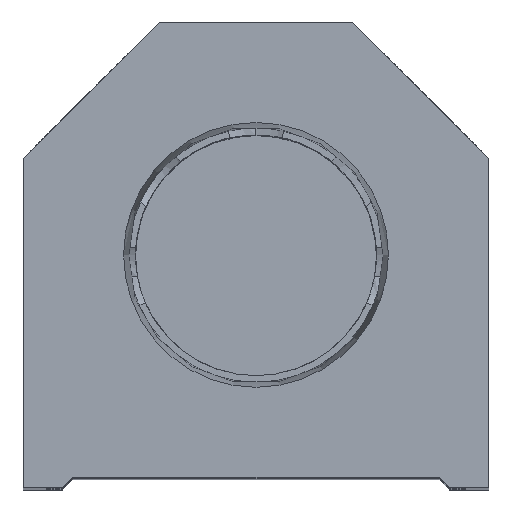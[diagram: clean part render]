
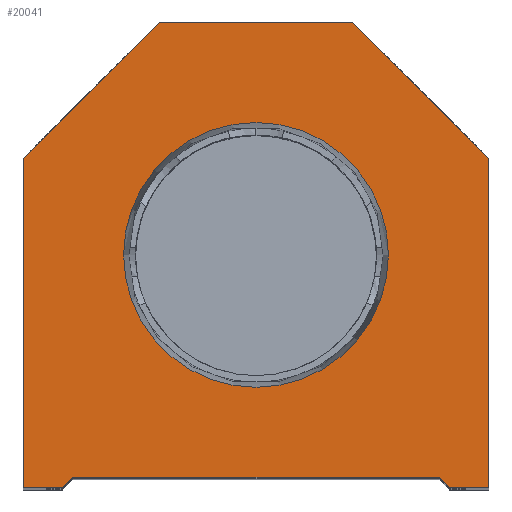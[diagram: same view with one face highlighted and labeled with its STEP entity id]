
A CAD part, top view. The second image highlights one B-rep face of the part: STEP entity #20041.
In plain terms, the highlighted planar face has unit normal (0, 0, 1).
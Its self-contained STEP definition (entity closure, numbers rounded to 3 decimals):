
#434 = DIRECTION ( 'NONE',  ( -0.707, -0.707, 0. ) ) ;
#444 = LINE ( 'NONE', #12379, #8956 ) ;
#504 = EDGE_CURVE ( 'NONE', #8210, #4084, #17225, .T. ) ;
#636 = EDGE_LOOP ( 'NONE', ( #14084, #20983, #6549, #16341, #22123, #20213, #9057, #3186, #5965, #1550 ) ) ;
#888 = AXIS2_PLACEMENT_3D ( 'NONE', #18411, #20607, #22697 ) ;
#1187 = CARTESIAN_POINT ( 'NONE',  ( -22.25, 31.5, 0. ) ) ;
#1312 = AXIS2_PLACEMENT_3D ( 'NONE', #7819, #8327, #23846 ) ;
#1343 = CARTESIAN_POINT ( 'NONE',  ( 17.5, 1., 0. ) ) ;
#1392 = EDGE_CURVE ( 'NONE', #21351, #7977, #444, .T. ) ;
#1550 = ORIENTED_EDGE ( 'NONE', *, *, #16546, .T. ) ;
#1570 = CARTESIAN_POINT ( 'NONE',  ( -9.25, 44.5, 0. ) ) ;
#2235 = VECTOR ( 'NONE', #9976, 1000. ) ;
#2253 = EDGE_CURVE ( 'NONE', #22250, #4230, #7909, .T. ) ;
#2354 = LINE ( 'NONE', #18084, #20437 ) ;
#2426 = CARTESIAN_POINT ( 'NONE',  ( 0., 22.25, 0. ) ) ;
#2516 = VERTEX_POINT ( 'NONE', #1570 ) ;
#2535 = FACE_BOUND ( 'NONE', #25291, .T. ) ;
#3014 = VECTOR ( 'NONE', #15741, 1000. ) ;
#3186 = ORIENTED_EDGE ( 'NONE', *, *, #25223, .T. ) ;
#3266 = VERTEX_POINT ( 'NONE', #24416 ) ;
#3750 = VECTOR ( 'NONE', #5486, 1000. ) ;
#4084 = VERTEX_POINT ( 'NONE', #1343 ) ;
#4230 = VERTEX_POINT ( 'NONE', #21325 ) ;
#4453 = LINE ( 'NONE', #4582, #20149 ) ;
#4459 = EDGE_CURVE ( 'NONE', #23551, #15921, #10469, .T. ) ;
#4582 = CARTESIAN_POINT ( 'NONE',  ( -22.25, 0., 0. ) ) ;
#5486 = DIRECTION ( 'NONE',  ( 1., 0., 0. ) ) ;
#5885 = VERTEX_POINT ( 'NONE', #10987 ) ;
#5965 = ORIENTED_EDGE ( 'NONE', *, *, #6673, .T. ) ;
#6450 = DIRECTION ( 'NONE',  ( 0.707, 0.707, 0. ) ) ;
#6549 = ORIENTED_EDGE ( 'NONE', *, *, #504, .T. ) ;
#6663 = PLANE ( 'NONE',  #888 ) ;
#6673 = EDGE_CURVE ( 'NONE', #2516, #10032, #2354, .T. ) ;
#6926 = CARTESIAN_POINT ( 'NONE',  ( -12.647, 22.25, 0. ) ) ;
#6965 = CARTESIAN_POINT ( 'NONE',  ( -9.25, 9.25, 0. ) ) ;
#7430 = CARTESIAN_POINT ( 'NONE',  ( -17.5, 1., 0. ) ) ;
#7507 = LINE ( 'NONE', #7630, #3014 ) ;
#7576 = CARTESIAN_POINT ( 'NONE',  ( 9.25, 44.5, 0. ) ) ;
#7630 = CARTESIAN_POINT ( 'NONE',  ( 9.25, 44.5, 0. ) ) ;
#7725 = DIRECTION ( 'NONE',  ( 0.707, -0.707, 0. ) ) ;
#7819 = CARTESIAN_POINT ( 'NONE',  ( 0., 22.25, 0. ) ) ;
#7909 = LINE ( 'NONE', #21775, #16171 ) ;
#7977 = VERTEX_POINT ( 'NONE', #7576 ) ;
#8210 = VERTEX_POINT ( 'NONE', #8976 ) ;
#8327 = DIRECTION ( 'NONE',  ( 0., 0., 1. ) ) ;
#8956 = VECTOR ( 'NONE', #16407, 1000. ) ;
#8976 = CARTESIAN_POINT ( 'NONE',  ( -17.5, 1., 0. ) ) ;
#9057 = ORIENTED_EDGE ( 'NONE', *, *, #1392, .T. ) ;
#9130 = DIRECTION ( 'NONE',  ( 1., 0., 0. ) ) ;
#9341 = EDGE_CURVE ( 'NONE', #3266, #5885, #18947, .T. ) ;
#9799 = EDGE_CURVE ( 'NONE', #4230, #21351, #21908, .T. ) ;
#9976 = DIRECTION ( 'NONE',  ( 0., 1., 0. ) ) ;
#10032 = VERTEX_POINT ( 'NONE', #1187 ) ;
#10469 = CIRCLE ( 'NONE', #18342, 12.647 ) ;
#10516 = FACE_OUTER_BOUND ( 'NONE', #636, .T. ) ;
#10987 = CARTESIAN_POINT ( 'NONE',  ( -18.5, 0., 0. ) ) ;
#12379 = CARTESIAN_POINT ( 'NONE',  ( 22.25, 31.5, 0. ) ) ;
#12434 = DIRECTION ( 'NONE',  ( 0., -1., 0. ) ) ;
#13062 = EDGE_CURVE ( 'NONE', #5885, #8210, #16762, .T. ) ;
#13895 = LINE ( 'NONE', #21450, #21050 ) ;
#14084 = ORIENTED_EDGE ( 'NONE', *, *, #9341, .T. ) ;
#15636 = CARTESIAN_POINT ( 'NONE',  ( 18.5, 0., 0. ) ) ;
#15741 = DIRECTION ( 'NONE',  ( -1., 0., 0. ) ) ;
#15921 = VERTEX_POINT ( 'NONE', #21994 ) ;
#16171 = VECTOR ( 'NONE', #19543, 1000. ) ;
#16341 = ORIENTED_EDGE ( 'NONE', *, *, #19390, .T. ) ;
#16407 = DIRECTION ( 'NONE',  ( -0.707, 0.707, 0. ) ) ;
#16546 = EDGE_CURVE ( 'NONE', #10032, #3266, #4453, .T. ) ;
#16762 = LINE ( 'NONE', #6965, #19354 ) ;
#17225 = LINE ( 'NONE', #7430, #3750 ) ;
#17922 = VECTOR ( 'NONE', #9130, 1000. ) ;
#18084 = CARTESIAN_POINT ( 'NONE',  ( -22.25, 31.5, 0. ) ) ;
#18228 = CARTESIAN_POINT ( 'NONE',  ( 22.25, 31.5, 0. ) ) ;
#18342 = AXIS2_PLACEMENT_3D ( 'NONE', #2426, #22205, #22461 ) ;
#18411 = CARTESIAN_POINT ( 'NONE',  ( 0., 0., 0. ) ) ;
#18471 = CARTESIAN_POINT ( 'NONE',  ( -17.5, 0., 0. ) ) ;
#18947 = LINE ( 'NONE', #18471, #17922 ) ;
#19354 = VECTOR ( 'NONE', #6450, 1000. ) ;
#19390 = EDGE_CURVE ( 'NONE', #4084, #22250, #13895, .T. ) ;
#19543 = DIRECTION ( 'NONE',  ( 1., 0., 0. ) ) ;
#20041 = ADVANCED_FACE ( 'NONE', ( #2535, #10516 ), #6663, .T. ) ;
#20149 = VECTOR ( 'NONE', #12434, 1000. ) ;
#20213 = ORIENTED_EDGE ( 'NONE', *, *, #9799, .T. ) ;
#20255 = EDGE_CURVE ( 'NONE', #15921, #23551, #24830, .T. ) ;
#20437 = VECTOR ( 'NONE', #434, 1000. ) ;
#20607 = DIRECTION ( 'NONE',  ( 0., 0., 1. ) ) ;
#20983 = ORIENTED_EDGE ( 'NONE', *, *, #13062, .T. ) ;
#21050 = VECTOR ( 'NONE', #7725, 1000. ) ;
#21325 = CARTESIAN_POINT ( 'NONE',  ( 22.25, 0., 0. ) ) ;
#21351 = VERTEX_POINT ( 'NONE', #18228 ) ;
#21450 = CARTESIAN_POINT ( 'NONE',  ( 9.25, 9.25, 0. ) ) ;
#21775 = CARTESIAN_POINT ( 'NONE',  ( 17.5, 0., 0. ) ) ;
#21908 = LINE ( 'NONE', #24089, #2235 ) ;
#21994 = CARTESIAN_POINT ( 'NONE',  ( 12.647, 22.25, 0. ) ) ;
#22123 = ORIENTED_EDGE ( 'NONE', *, *, #2253, .T. ) ;
#22205 = DIRECTION ( 'NONE',  ( 0., 0., 1. ) ) ;
#22250 = VERTEX_POINT ( 'NONE', #15636 ) ;
#22461 = DIRECTION ( 'NONE',  ( 1., 0., 0. ) ) ;
#22697 = DIRECTION ( 'NONE',  ( 1., 0., 0. ) ) ;
#23551 = VERTEX_POINT ( 'NONE', #6926 ) ;
#23846 = DIRECTION ( 'NONE',  ( 1., 0., 0. ) ) ;
#23910 = ORIENTED_EDGE ( 'NONE', *, *, #20255, .F. ) ;
#24089 = CARTESIAN_POINT ( 'NONE',  ( 22.25, 0., 0. ) ) ;
#24416 = CARTESIAN_POINT ( 'NONE',  ( -22.25, 0., 0. ) ) ;
#24830 = CIRCLE ( 'NONE', #1312, 12.647 ) ;
#25223 = EDGE_CURVE ( 'NONE', #7977, #2516, #7507, .T. ) ;
#25291 = EDGE_LOOP ( 'NONE', ( #23910, #25355 ) ) ;
#25355 = ORIENTED_EDGE ( 'NONE', *, *, #4459, .F. ) ;
